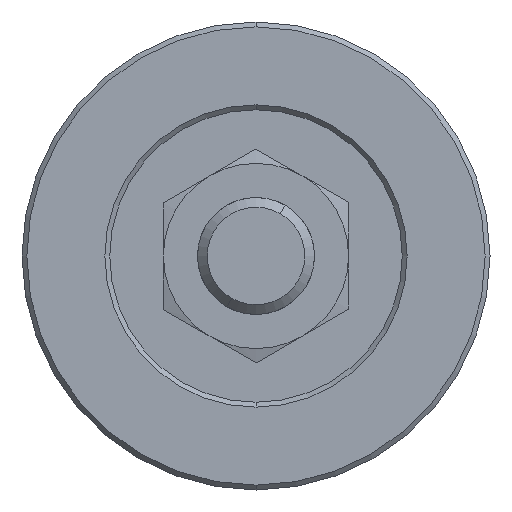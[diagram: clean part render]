
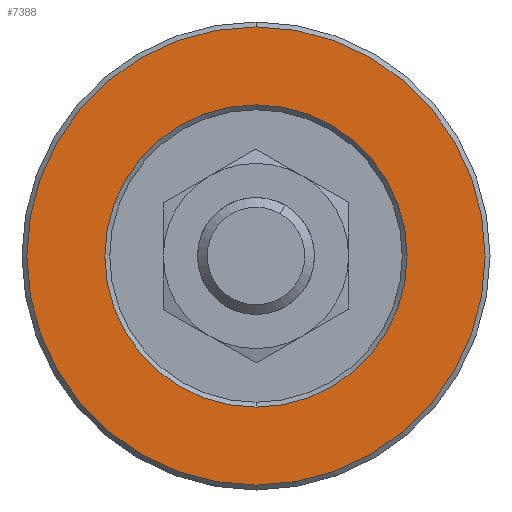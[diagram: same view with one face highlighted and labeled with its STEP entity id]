
A CAD part, front view. The second image highlights one B-rep face of the part: STEP entity #7388.
In plain terms, the highlighted planar face has unit normal (0, -1, 0).
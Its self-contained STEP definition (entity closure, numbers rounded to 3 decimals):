
#54 = VERTEX_POINT ( 'NONE', #1267 ) ;
#260 = DIRECTION ( 'NONE',  ( 0., 0., -1. ) ) ;
#289 = DIRECTION ( 'NONE',  ( 0., -1., 0. ) ) ;
#455 = PLANE ( 'NONE',  #6746 ) ;
#503 = EDGE_LOOP ( 'NONE', ( #4080, #868 ) ) ;
#723 = AXIS2_PLACEMENT_3D ( 'NONE', #6351, #6974, #5704 ) ;
#868 = ORIENTED_EDGE ( 'NONE', *, *, #1105, .T. ) ;
#885 = DIRECTION ( 'NONE',  ( 0., 1., 0. ) ) ;
#990 = DIRECTION ( 'NONE',  ( 0., 0., -1. ) ) ;
#1021 = AXIS2_PLACEMENT_3D ( 'NONE', #4004, #289, #260 ) ;
#1105 = EDGE_CURVE ( 'NONE', #3138, #6797, #3395, .T. ) ;
#1267 = CARTESIAN_POINT ( 'NONE',  ( 0., 0., 23.5 ) ) ;
#2217 = CARTESIAN_POINT ( 'NONE',  ( 0., 0., 0. ) ) ;
#2626 = EDGE_LOOP ( 'NONE', ( #4676, #4220 ) ) ;
#2889 = EDGE_CURVE ( 'NONE', #3326, #54, #3086, .T. ) ;
#2973 = EDGE_CURVE ( 'NONE', #6797, #3138, #6174, .T. ) ;
#3086 = CIRCLE ( 'NONE', #4962, 23.5 ) ;
#3138 = VERTEX_POINT ( 'NONE', #4771 ) ;
#3251 = CARTESIAN_POINT ( 'NONE',  ( 0., 0., 0. ) ) ;
#3288 = EDGE_CURVE ( 'NONE', #54, #3326, #4540, .T. ) ;
#3326 = VERTEX_POINT ( 'NONE', #6516 ) ;
#3395 = CIRCLE ( 'NONE', #4259, 15.5 ) ;
#3858 = DIRECTION ( 'NONE',  ( 0., 0., -1. ) ) ;
#4004 = CARTESIAN_POINT ( 'NONE',  ( 0., 0., 0. ) ) ;
#4080 = ORIENTED_EDGE ( 'NONE', *, *, #2973, .T. ) ;
#4220 = ORIENTED_EDGE ( 'NONE', *, *, #2889, .T. ) ;
#4259 = AXIS2_PLACEMENT_3D ( 'NONE', #2217, #885, #5220 ) ;
#4540 = CIRCLE ( 'NONE', #1021, 23.5 ) ;
#4676 = ORIENTED_EDGE ( 'NONE', *, *, #3288, .T. ) ;
#4771 = CARTESIAN_POINT ( 'NONE',  ( 0., 0., 15.5 ) ) ;
#4962 = AXIS2_PLACEMENT_3D ( 'NONE', #3251, #7560, #3858 ) ;
#5220 = DIRECTION ( 'NONE',  ( 0., 0., -1. ) ) ;
#5704 = DIRECTION ( 'NONE',  ( 0., 0., -1. ) ) ;
#6174 = CIRCLE ( 'NONE', #723, 15.5 ) ;
#6351 = CARTESIAN_POINT ( 'NONE',  ( 0., 0., 0. ) ) ;
#6516 = CARTESIAN_POINT ( 'NONE',  ( 0., 0., -23.5 ) ) ;
#6746 = AXIS2_PLACEMENT_3D ( 'NONE', #7857, #7775, #990 ) ;
#6797 = VERTEX_POINT ( 'NONE', #7202 ) ;
#6974 = DIRECTION ( 'NONE',  ( 0., 1., 0. ) ) ;
#6988 = FACE_OUTER_BOUND ( 'NONE', #2626, .T. ) ;
#7202 = CARTESIAN_POINT ( 'NONE',  ( 0., 0., -15.5 ) ) ;
#7388 = ADVANCED_FACE ( 'NONE', ( #6988, #7663 ), #455, .T. ) ;
#7560 = DIRECTION ( 'NONE',  ( 0., -1., 0. ) ) ;
#7663 = FACE_BOUND ( 'NONE', #503, .T. ) ;
#7775 = DIRECTION ( 'NONE',  ( 0., -1., 0. ) ) ;
#7857 = CARTESIAN_POINT ( 'NONE',  ( 15., 0., 0. ) ) ;
